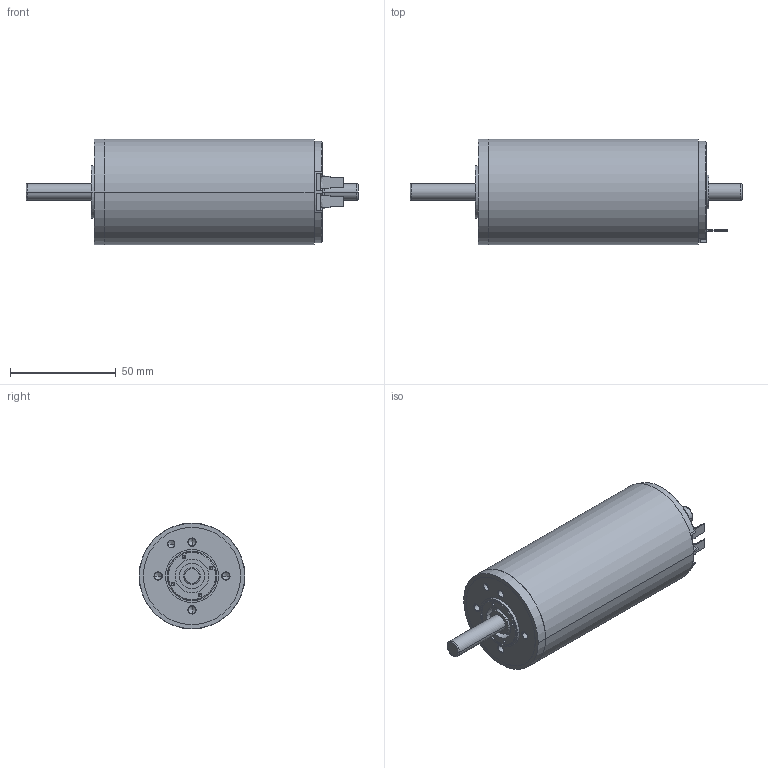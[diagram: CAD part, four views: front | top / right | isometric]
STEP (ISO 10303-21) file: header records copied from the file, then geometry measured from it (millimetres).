
FILE_DESCRIPTION((''),'2;1');
FILE_NAME('948510_ASM','2010-03-09T',('MMAGBRD'),(''),'PRO/ENGINEER BY PARAMETRIC TECHNOLOGY CORPORATION, 2009230','PRO/ENGINEER BY PARAMETRIC TECHNOLOGY CORPORATION, 2009230','');
FILE_SCHEMA(('CONFIG_CONTROL_DESIGN'));
Length unit declared in the file: millimetre
Products named in the file (1): 948510_ASM
Bounding box: 157 x 50 x 50 mm (x, y, z)
Volume: 213202.8 mm3; surface area: 24780 mm2
Topology: 1 solids, 10 shells, 290 faces, 704 edges, 445 vertices
Faces by surface type: plane 127, cylinder 110, cone 31, bspline 12, torus 10
Entity records: 9694 total; most frequent: CARTESIAN_POINT 2899, DIRECTION 1438, ORIENTED_EDGE 1328, EDGE_CURVE 676, AXIS2_PLACEMENT_3D 531, VERTEX_POINT 445, VECTOR 376, LINE 376
